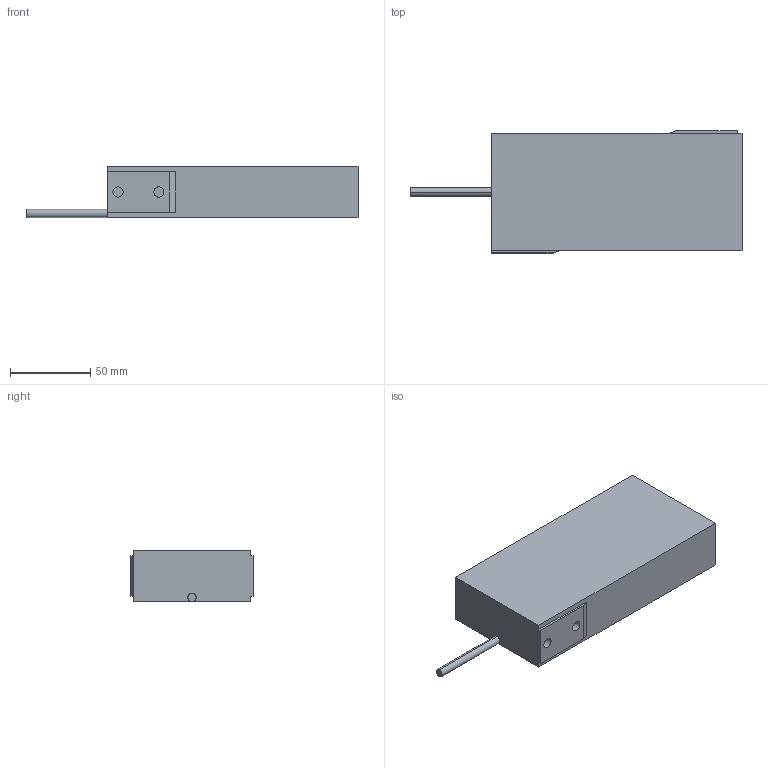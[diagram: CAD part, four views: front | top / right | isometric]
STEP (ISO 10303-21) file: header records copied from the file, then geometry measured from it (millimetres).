
FILE_DESCRIPTION (( 'STEP AP203' ), '1' );
FILE_NAME ('SPI-100.STEP', '2018-07-03T15:58:57', ( '' ), ( '' ), 'SwSTEP 2.0', 'SolidWorks 2013', '' );
FILE_SCHEMA (( 'CONFIG_CONTROL_DESIGN' ));
Length unit declared in the file: inch
Products named in the file (1): SPI-100
Bounding box: 206.25 x 75.82 x 31.75 mm (x, y, z)
Volume: 363974.2 mm3; surface area: 38868.7 mm2
Topology: 1 solids, 1 shells, 30 faces, 67 edges, 44 vertices
Faces by surface type: plane 20, cylinder 10
Entity records: 914 total; most frequent: DIRECTION 149, CARTESIAN_POINT 142, ORIENTED_EDGE 134, EDGE_CURVE 67, AXIS2_PLACEMENT_3D 51, LINE 47, VECTOR 47, VERTEX_POINT 44
